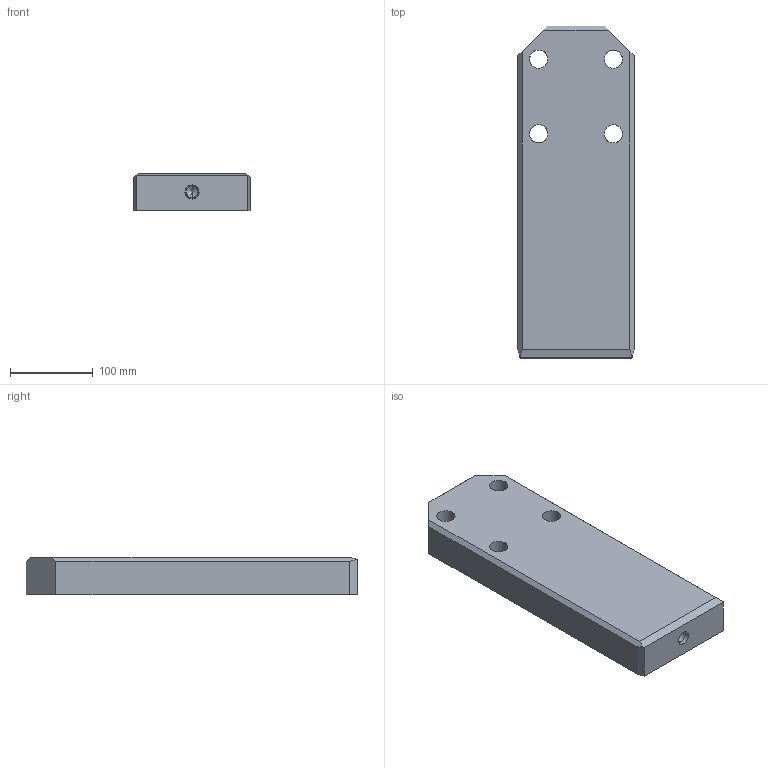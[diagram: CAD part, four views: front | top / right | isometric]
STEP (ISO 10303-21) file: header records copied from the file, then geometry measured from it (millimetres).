
FILE_DESCRIPTION(('CATIA V5 STEP Exchange'),'2;1');
FILE_NAME('C:\Users\borellobunino\Desktop\3D X SITO CF\A927\GSB_OILLESS_G2290514040045\STEP-2.03\A927-140X400X45.stp','2019-07-15T19:42:57+00:00',('none'),('none'),'CATIA Version 5 Release 20 GA (IN-10)','CATIA V5 STEP AP203','none');
FILE_SCHEMA(('CONFIG_CONTROL_DESIGN'));
Length unit declared in the file: millimetre
Products named in the file (1): A927-140X400X45
Bounding box: 140 x 400 x 45 mm (x, y, z)
Volume: 2322259.2 mm3; surface area: 167832.8 mm2
Topology: 1 solids, 1 shells, 52 faces, 134 edges, 89 vertices
Faces by surface type: cylinder 22, plane 20, cone 10
Entity records: 2048 total; most frequent: CARTESIAN_POINT 784, ORIENTED_EDGE 264, DIRECTION 206, EDGE_CURVE 132, VERTEX_POINT 89, AXIS2_PLACEMENT_3D 87, VECTOR 68, LINE 68
